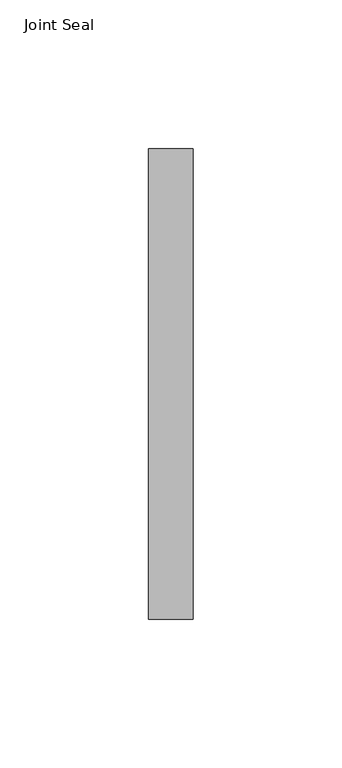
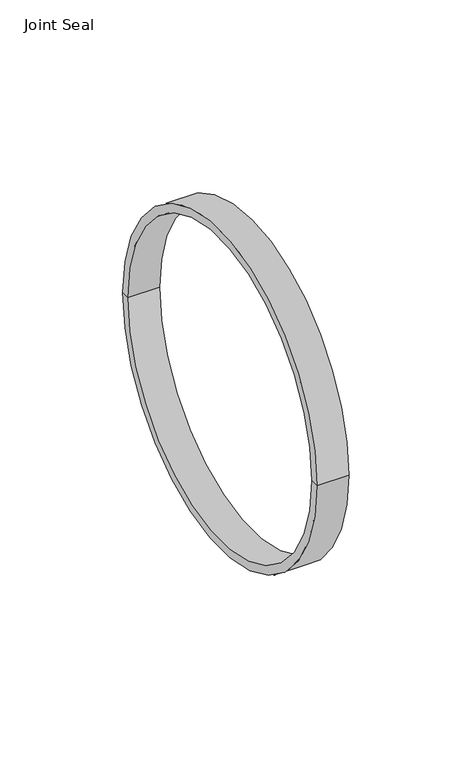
"""IFC4 building model written with IfcOpenShell, lengths in millimetres: valve geometry, CADS_Jeremias_JointSeal : Joint Seal."""

from ifc_helpers import new_model, si_unit, frame, origin, place, context, project, spatial, polyline, circle_curve, source, transform, mapped, element, save
from ifc_brep_helpers import plane_surface, cylinder_surface, revolved_surface, advanced_brep


def joint_seal_4c32b900(model_context):
    return source(origin(), model_context, "Body", "AdvancedBrep", [
        advanced_brep(
        [(27.5, -75.0, 0.0), (27.5, 75.0, 0.0), (27.5, 79.0, 0.0), (27.5, -79.0, 0.0), (42.5, -75.0, 0.0), (42.5, 75.0, 0.0), (42.5, -79.0, 0.0), (42.5, 79.0, 0.0)],
        [
            (0, 1, circle_curve(frame((27.5, 0.0, 0.0), z_axis=(1.0, 0.0, 0.0), x_axis=(0.0, 1.0, 0.0)), 75.0)),
            (1, 2),
            (2, 3, circle_curve(frame((27.5, 0.0, 0.0), z_axis=(-1.0, 0.0, 0.0), x_axis=(0.0, 1.0, 0.0)), 79.0)),
            (3, 0),
            (1, 0, circle_curve(frame((27.5, 0.0, 0.0), z_axis=(1.0, 0.0, 0.0), x_axis=(0.0, 1.0, 0.0)), 75.0)),
            (3, 2, circle_curve(frame((27.5, 0.0, 0.0), z_axis=(-1.0, 0.0, 0.0), x_axis=(0.0, 1.0, 0.0)), 79.0)),
            (4, 5, circle_curve(frame((42.5, 0.0, 0.0), z_axis=(1.0, 0.0, 0.0), x_axis=(0.0, 1.0, 0.0)), 75.0)),
            (5, 1),
            (0, 4),
            (5, 4, circle_curve(frame((42.5, 0.0, 0.0), z_axis=(1.0, 0.0, 0.0), x_axis=(0.0, 1.0, 0.0)), 75.0)),
            (6, 7, circle_curve(frame((42.5, 0.0, 0.0), z_axis=(1.0, 0.0, 0.0), x_axis=(0.0, 1.0, 0.0)), 79.0)),
            (7, 5),
            (4, 6),
            (7, 6, circle_curve(frame((42.5, 0.0, 0.0), z_axis=(1.0, 0.0, 0.0), x_axis=(0.0, 1.0, 0.0)), 79.0)),
            (2, 7),
            (6, 3),
        ],
        [
            plane_surface(frame((27.5, 0.0, 0.0), z_axis=(-1.0, 0.0, 0.0), x_axis=(0.0, 1.0, 0.0))),
            revolved_surface(polyline([(27.5, 75.0, 0.0), (42.5, 75.0, 0.0)]), (1975.0, 0.0, 0.0), (-1.0, 0.0, 0.0)),
            plane_surface(frame((42.5, 0.0, 0.0), z_axis=(1.0, 0.0, 0.0), x_axis=(0.0, 1.0, 0.0))),
            cylinder_surface(frame((1975.0, 0.0, 0.0), z_axis=(-1.0, 0.0, 0.0), x_axis=(0.0, 1.0, 0.0)), 79.0),
        ],
        [
            (0, [[1, 2, 3, 4]]),
            (0, [[5, -4, 6, -2]]),
            (1, [[7, 8, -1, 9]]),
            (1, [[10, -9, -5, -8]]),
            (2, [[11, 12, -7, 13]]),
            (2, [[14, -13, -10, -12]]),
            (3, [[-3, 15, -11, 16]]),
            (3, [[-6, -16, -14, -15]]),
        ],
    ),
    ])


if __name__ == "__main__":
    model = new_model("IFC4")
    model_context = context("Model", 3, world=origin())
    ifc_project = project(units=[si_unit("LENGTHUNIT", "METRE", prefix="MILLI")], contexts=[model_context])
    site = spatial("IfcSite", under=ifc_project)
    building = spatial("IfcBuilding", under=site)
    placement = place(None, origin())
    joint_seal_shape = joint_seal_4c32b900(model_context)
    element("IfcValve", 1, ObjectType="CADS_Jeremias_JointSeal : Joint Seal", at=placement, inside=building, context=model_context, shape_type="MappedRepresentation", body=[
        mapped(joint_seal_shape, transform((0.0, 0.0, 0.0), x_axis=(1.0, 0.0, 0.0), y_axis=(0.0, 1.0, 0.0), z_axis=(0.0, 0.0, 1.0))),
    ])
    save(model, "model.ifc")
